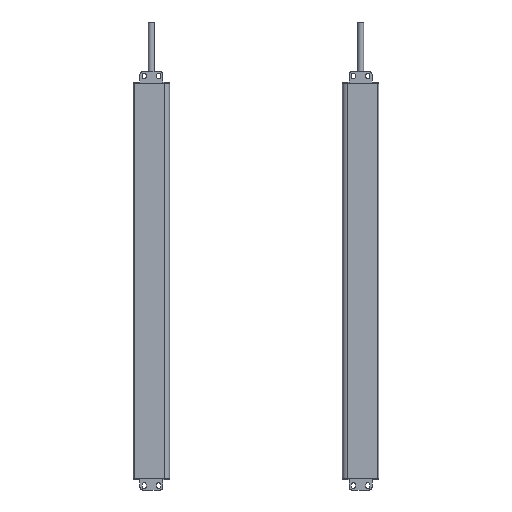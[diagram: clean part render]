
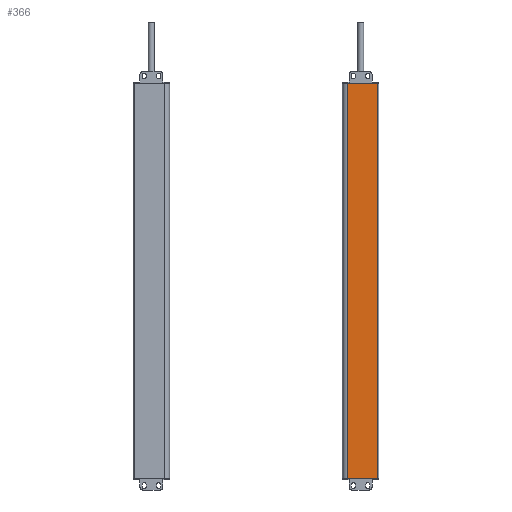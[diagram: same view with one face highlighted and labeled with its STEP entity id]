
A CAD part, front view. The second image highlights one B-rep face of the part: STEP entity #366.
In plain terms, the highlighted planar face has unit normal (0, -1, 0).
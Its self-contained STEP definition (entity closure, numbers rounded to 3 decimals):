
#123=PLANE('',#5869);
#366=ADVANCED_FACE('',(#797),#123,.T.);
#797=FACE_OUTER_BOUND('',#1073,.T.);
#1073=EDGE_LOOP('',(#1780,#1781,#1782,#1783));
#1780=ORIENTED_EDGE('',*,*,#3977,.T.);
#1781=ORIENTED_EDGE('',*,*,#3978,.F.);
#1782=ORIENTED_EDGE('',*,*,#3979,.F.);
#1783=ORIENTED_EDGE('',*,*,#3903,.T.);
#3351=VERTEX_POINT('',#8106);
#3352=VERTEX_POINT('',#8108);
#3421=VERTEX_POINT('',#8253);
#3422=VERTEX_POINT('',#8257);
#3903=EDGE_CURVE('',#3352,#3351,#4726,.T.);
#3977=EDGE_CURVE('',#3351,#3421,#4771,.T.);
#3978=EDGE_CURVE('',#3422,#3421,#4772,.T.);
#3979=EDGE_CURVE('',#3352,#3422,#4773,.T.);
#4726=LINE('',#8107,#5280);
#4771=LINE('',#8254,#5325);
#4772=LINE('',#8256,#5326);
#4773=LINE('',#8258,#5327);
#5280=VECTOR('',#6413,1.);
#5325=VECTOR('',#6522,1.);
#5326=VECTOR('',#6525,1.);
#5327=VECTOR('',#6526,1.);
#5869=AXIS2_PLACEMENT_3D('',#8259,#6527,#6528);
#6413=DIRECTION('',(1.,0.,0.));
#6522=DIRECTION('',(0.,0.,1.));
#6525=DIRECTION('',(1.,0.,0.));
#6526=DIRECTION('',(0.,0.,1.));
#6527=DIRECTION('',(0.,-1.,0.));
#6528=DIRECTION('',(-1.,0.,0.));
#8106=CARTESIAN_POINT('',(3.35,-1.3,-100.));
#8107=CARTESIAN_POINT('',(-21.15,-1.3,-100.));
#8108=CARTESIAN_POINT('',(-21.15,-1.3,-100.));
#8253=CARTESIAN_POINT('',(3.35,-1.3,222.));
#8254=CARTESIAN_POINT('',(3.35,-1.3,-100.));
#8256=CARTESIAN_POINT('',(-4122.897,-1.3,222.));
#8257=CARTESIAN_POINT('',(-21.15,-1.3,222.));
#8258=CARTESIAN_POINT('',(-21.15,-1.3,-100.));
#8259=CARTESIAN_POINT('',(-21.15,-1.3,-100.));
